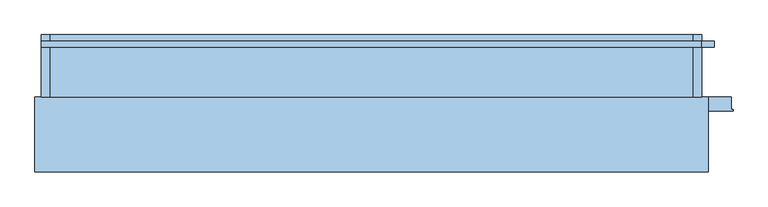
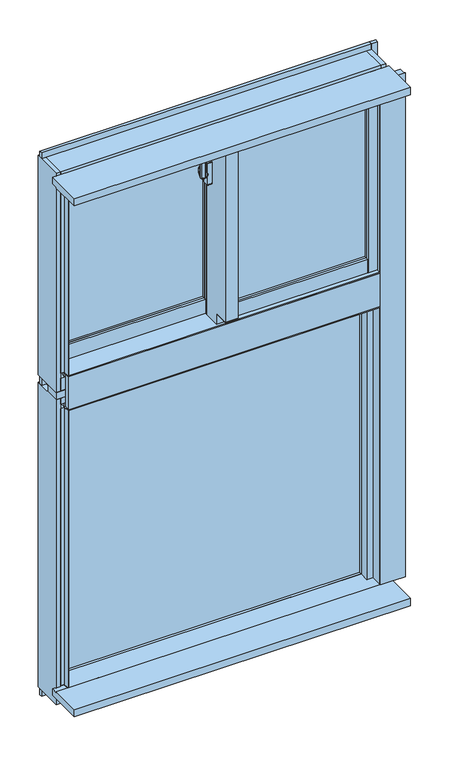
"""IFC4 building model written with IfcOpenShell, lengths in millimetres: window geometry, FNSⅡ100R_非防火_面付枠_段窓_分解無目 : FIX/引違."""

from ifc_helpers import new_model, si_unit, point, frame, frame_2d, origin, place, context, project, spatial, polyline, circle_curve, trimmed, segment, composite_curve, outline, extrude, faceted_brep, source, transform, mapped, element, save
from ifc_brep_helpers import plane_surface, cylinder_surface, revolved_surface, advanced_brep


def window_4e5b74e6(model_context):
    return source(origin(), model_context, "Body", "SolidModel", [
        extrude(outline(composite_curve([segment(polyline([(-39.0, 34.6), (-39.0, 26.4)]), True, "CONTINUOUS"), segment(trimmed(circle_curve(frame_2d((-41.0, 26.4)), 2.0), [point((-39.0, 26.4))], [point((-41.3606557, 24.4327869))], False, "CARTESIAN"), True, "CONTINUOUS"), segment(polyline([(-41.3606557, 24.4327869), (-52.3606557, 26.4494536)]), True, "CONTINUOUS"), segment(trimmed(circle_curve(frame_2d((-52.0, 28.4166667)), 2.0), [point((-52.3606557, 26.4494536))], [point((-54.0, 28.4166667))], False, "CARTESIAN"), True, "CONTINUOUS"), segment(polyline([(-54.0, 28.4166667), (-54.0, 32.5833333)]), True, "CONTINUOUS"), segment(trimmed(circle_curve(frame_2d((-52.0, 32.5833333)), 2.0), [point((-54.0, 32.5833333))], [point((-52.3606557, 34.5505464))], False, "CARTESIAN"), True, "CONTINUOUS"), segment(polyline([(-52.3606557, 34.5505464), (-41.3606557, 36.5672131)]), True, "CONTINUOUS"), segment(trimmed(circle_curve(frame_2d((-41.0, 34.6)), 2.0), [point((-41.3606557, 36.5672131))], [point((-39.0, 34.6))], False, "CARTESIAN"), True, "CONTINUOUS")], self_intersect=False)), frame((0.0, 0.0, 2450.0), z_axis=(0.0, 0.0, 1.0), x_axis=(1.0, 0.0, 0.0)), (0.0, 0.0, 1.0), 100.0),
        advanced_brep(
        [(-37.5, 38.8234285, 2481.7333311), (-45.5, 38.8234285, 2481.7333311), (-45.5, 38.4351999, 2480.2844424), (-39.0, 38.4351999, 2480.2844424), (-39.0, 36.6234666, 2473.5229616), (-37.5, 36.6234666, 2473.5229616), (-39.0, 36.6466117, 2439.3190372), (-45.5, 36.6466117, 2439.3190372), (-45.5, 36.907084, 2437.8418256), (-37.5, 36.907084, 2437.8418256), (-37.5, 35.4310745, 2446.2126915), (-39.0, 35.4310745, 2446.2126915)],
        [
            (0, 1),
            (1, 2),
            (2, 3),
            (3, 4),
            (4, 5),
            (5, 0),
            (6, 7),
            (7, 8),
            (8, 9),
            (9, 10),
            (10, 11),
            (11, 6),
            (0, 9, circle_curve(frame((-37.5, 33.0, 2460.0), z_axis=(-1.0, 0.0, 0.0), x_axis=(0.0, 0.25881904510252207, 0.965925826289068)), 22.5)),
            (8, 1, circle_curve(frame((-45.5, 33.0, 2460.0), z_axis=(1.0, 0.0, 0.0), x_axis=(0.0, 0.25881904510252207, 0.965925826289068)), 22.5)),
            (7, 2, circle_curve(frame((-45.5, 33.0, 2460.0), z_axis=(1.0, 0.0, 0.0), x_axis=(0.0, 0.25881904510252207, 0.965925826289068)), 21.0)),
            (6, 3, circle_curve(frame((-39.0, 33.0, 2460.0), z_axis=(1.0, 0.0, 0.0), x_axis=(0.0, 0.25881904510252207, 0.965925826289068)), 21.0)),
            (11, 4, circle_curve(frame((-39.0, 33.0, 2460.0), z_axis=(-1.0, 0.0, 0.0), x_axis=(0.0, -1.0, 0.0)), 14.0)),
            (5, 10, circle_curve(frame((-37.5, 33.0, 2460.0), z_axis=(1.0, 0.0, 0.0), x_axis=(0.0, -1.0, 0.0)), 14.0)),
        ],
        [
            plane_surface(frame((-43.5470497, 33.0, 2460.0), z_axis=(0.0, -0.965925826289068, 0.25881904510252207), x_axis=(0.0, 0.25881904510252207, 0.965925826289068))),
            plane_surface(frame((-43.5470497, 33.0, 2460.0), z_axis=(0.0, -0.9848077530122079, -0.17364817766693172), x_axis=(0.0, 0.17364817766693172, -0.9848077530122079))),
            cylinder_surface(frame((-43.5470497, 33.0, 2460.0), z_axis=(-1.0, 0.0, 0.0), x_axis=(0.0, 0.25881904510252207, 0.965925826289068)), 22.5),
            plane_surface(frame((-45.5, 33.0, 2460.0), z_axis=(-1.0, 0.0, 0.0), x_axis=(0.0, 0.25881904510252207, 0.965925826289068))),
            revolved_surface(polyline([(-45.5, 38.43519994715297, 2480.2844423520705), (-39.0, 38.43519994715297, 2480.2844423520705)]), (-43.5470497, 33.0, 2460.0), (-1.0, 0.0, 0.0)),
            plane_surface(frame((-39.0, 33.0, 2460.0), z_axis=(-1.0, 0.0, 0.0), x_axis=(0.0, 0.25881904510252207, 0.965925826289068))),
            plane_surface(frame((-37.5, 33.0, 2460.0), z_axis=(1.0, 0.0, 0.0), x_axis=(0.0, 0.25881904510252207, 0.965925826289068))),
            cylinder_surface(frame((-37.5, 33.0, 2460.0), z_axis=(-1.0, 0.0, 0.0), x_axis=(0.0, -1.0, 0.0)), 14.0),
        ],
        [
            (0, [[1, 2, 3, 4, 5, 6]]),
            (1, [[7, 8, 9, 10, 11, 12]]),
            (2, [[-1, 13, -9, 14]]),
            (3, [[-2, -14, -8, 15]]),
            (4, [[-3, -15, -7, 16]]),
            (5, [[-16, -12, 17, -4]]),
            (6, [[-13, -6, 18, -10]]),
            (7, [[-17, -11, -18, -5]]),
        ],
    ),
        extrude(outline(composite_curve([segment(trimmed(circle_curve(frame_2d((33.0, 2460.0)), 11.5), [point((44.5, 2460.0))], [point((21.5, 2460.0))], False, "CARTESIAN"), True, "CONTINUOUS"), segment(trimmed(circle_curve(frame_2d((33.0, 2460.0)), 11.5), [point((21.5, 2460.0))], [point((44.5, 2460.0))], False, "CARTESIAN"), True, "CONTINUOUS")], self_intersect=False)), frame((-37.5, 0.0, 0.0), z_axis=(1.0, 0.0, 0.0), x_axis=(0.0, 1.0, 0.0)), (0.0, 0.0, 1.0), 2.5),
        extrude(outline(composite_curve([segment(polyline([(24.0, 2497.5), (42.0, 2497.5)]), True, "CONTINUOUS"), segment(trimmed(circle_curve(frame_2d((42.0, 2495.5)), 2.0), [point((42.0, 2497.5))], [point((44.0, 2495.5))], False, "CARTESIAN"), True, "CONTINUOUS"), segment(polyline([(44.0, 2495.5), (44.0, 2424.5)]), True, "CONTINUOUS"), segment(trimmed(circle_curve(frame_2d((42.0, 2424.5)), 2.0), [point((44.0, 2424.5))], [point((42.0, 2422.5))], False, "CARTESIAN"), True, "CONTINUOUS"), segment(polyline([(42.0, 2422.5), (24.0, 2422.5)]), True, "CONTINUOUS"), segment(trimmed(circle_curve(frame_2d((24.0, 2424.5)), 2.0), [point((24.0, 2422.5))], [point((22.0, 2424.5))], False, "CARTESIAN"), True, "CONTINUOUS"), segment(polyline([(22.0, 2424.5), (22.0, 2495.5)]), True, "CONTINUOUS"), segment(trimmed(circle_curve(frame_2d((24.0, 2495.5)), 2.0), [point((22.0, 2495.5))], [point((24.0, 2497.5))], False, "CARTESIAN"), True, "CONTINUOUS")], self_intersect=False)), frame((-35.0, 0.0, 0.0), z_axis=(1.0, 0.0, 0.0), x_axis=(0.0, 1.0, 0.0)), (0.0, 0.0, 1.0), 15.0),
        extrude(outline(polyline([(20.0, 24.0), (468.0, 24.0), (468.0, 18.0), (20.0, 18.0), (20.0, 24.0)])), frame((0.0, 0.0, 2008.0), z_axis=(0.0, 0.0, 1.0), x_axis=(1.0, 0.0, 0.0)), (0.0, 0.0, 1.0), 562.0),
        extrude(outline(polyline([(20.0, 42.0), (468.0, 42.0), (468.0, 36.0), (20.0, 36.0), (20.0, 42.0)])), frame((0.0, 0.0, 2008.0), z_axis=(0.0, 0.0, 1.0), x_axis=(1.0, 0.0, 0.0)), (0.0, 0.0, 1.0), 562.0),
        extrude(outline(polyline([(-468.0, 82.0), (-20.0, 82.0), (-20.0, 76.0), (-468.0, 76.0), (-468.0, 82.0)])), frame((0.0, 0.0, 2008.0), z_axis=(0.0, 0.0, 1.0), x_axis=(1.0, 0.0, 0.0)), (0.0, 0.0, 1.0), 562.0),
        extrude(outline(polyline([(-468.0, 100.0), (-20.0, 100.0), (-20.0, 94.0), (-468.0, 94.0), (-468.0, 100.0)])), frame((0.0, 0.0, 2008.0), z_axis=(0.0, 0.0, 1.0), x_axis=(1.0, 0.0, 0.0)), (0.0, 0.0, 1.0), 562.0),
        faceted_brep([(-500.0, 108.0, 2610.0), (-468.0, 108.0, 2610.0), (-468.0, 108.0, 1920.0), (-500.0, 108.0, 1920.0), (-500.0, 79.0, 1920.0), (-500.0, 79.0, 2610.0), (-489.5, 79.0, 1960.0), (-468.0, 79.0, 1960.0), (-468.0, 66.0, 1960.0), (-489.5, 66.0, 1960.0), (-489.5, 79.0, 2610.0), (-489.5, 66.0, 2610.0), (-468.0, 66.0, 2610.0), (-468.0, 79.0, 1920.0)], [[[0, 1, 2, 3]], [[4, 5, 0, 3]], [[6, 7, 8, 9]], [[5, 10, 11, 12, 1, 0]], [[13, 4, 3, 2]], [[10, 5, 4, 13, 7, 6]], [[11, 10, 6, 9]], [[12, 11, 9, 8]], [[1, 12, 8, 7, 13, 2]]]),
        faceted_brep([(-20.0, 108.0, 1920.0), (20.0, 108.0, 1920.0), (20.0, 79.0, 1920.0), (-20.0, 79.0, 1920.0), (-1.8, 65.5, 2610.0), (-20.0, 65.5, 2610.0), (-20.0, 65.5, 1960.0), (-1.8, 65.5, 1960.0), (-1.8, 53.1, 2610.0), (-1.8, 53.1, 1960.0), (20.0, 53.1, 2610.0), (20.0, 53.1, 1960.0), (-20.0, 108.0, 2610.0), (20.0, 108.0, 2610.0), (-20.0, 79.0, 1960.0), (20.0, 79.0, 1960.0)], [[[0, 1, 2, 3]], [[4, 5, 6, 7]], [[8, 4, 7, 9]], [[10, 8, 9, 11]], [[12, 13, 1, 0]], [[14, 15, 11, 9, 7, 6]], [[5, 4, 8, 10, 13, 12]], [[13, 10, 11, 15, 2, 1]], [[5, 12, 0, 3, 14, 6]], [[15, 14, 3, 2]]]),
        faceted_brep([(-20.0, 53.1, 1960.0), (-15.0, 53.1, 1960.0), (-15.0, 0.0, 1960.0), (-20.0, 0.0, 1960.0), (15.0, 12.0, 1960.0), (20.0, 12.0, 1960.0), (20.0, 0.0, 1960.0), (15.0, 0.0, 1960.0), (-15.0, 53.1, 2610.0), (-15.0, 0.0, 2610.0), (-15.0, 0.0, 2581.0), (-15.0, -42.0, 2581.0), (-15.0, -42.0, 1996.5), (-15.0, 0.0, 1996.5), (-20.0, 53.1, 2610.0), (-20.0, 0.0, 2610.0), (20.0, 12.0, 2610.0), (15.0, 12.0, 2610.0), (15.0, 0.0, 2610.0), (20.0, 0.0, 2610.0), (-20.0, 0.0, 1996.5), (-20.0, -50.0, 1996.5), (-20.0, -50.0, 2581.0), (-20.0, 0.0, 2581.0), (20.0, -50.0, 1996.5), (20.0, -50.0, 2581.0), (20.0, 0.0, 2581.0), (20.0, 0.0, 1996.5), (15.0, -42.0, 2581.0), (15.0, -42.0, 1996.5), (15.0, 0.0, 1996.5), (15.0, 0.0, 2581.0)], [[[0, 1, 2, 3]], [[4, 5, 6, 7]], [[1, 8, 9, 10, 11, 12, 13, 2]], [[14, 8, 1, 0]], [[8, 14, 15, 9]], [[16, 17, 18, 19]], [[14, 0, 3, 20, 21, 22, 23, 15]], [[22, 21, 24, 25]], [[5, 16, 19, 26, 25, 24, 27, 6]], [[28, 29, 12, 11]], [[17, 16, 5, 4]], [[17, 4, 7, 30, 29, 28, 31, 18]], [[13, 20, 3, 2]], [[27, 30, 7, 6]], [[20, 13, 12, 29, 30, 27, 24, 21]], [[10, 23, 22, 25, 26, 31, 28, 11]], [[23, 10, 9, 15]], [[31, 26, 19, 18]]]),
        faceted_brep([(-15.0, 53.1, 1960.0), (20.0, 53.1, 1960.0), (20.0, 12.0, 1960.0), (15.0, 12.0, 1960.0), (15.0, 0.0, 1960.0), (-15.0, 0.0, 1960.0), (-15.0, 53.1, 2610.0), (-15.0, 0.0, 1996.5), (-15.0, -42.0, 1996.5), (-15.0, -42.0, 2581.0), (-15.0, 0.0, 2581.0), (-15.0, 0.0, 2610.0), (20.0, 53.1, 2610.0), (15.0, 0.0, 2581.0), (15.0, -42.0, 2581.0), (15.0, 12.0, 2610.0), (20.0, 12.0, 2610.0), (15.0, 0.0, 2610.0), (15.0, -42.0, 1996.5), (15.0, 0.0, 1996.5)], [[[0, 1, 2, 3, 4, 5]], [[6, 0, 5, 7, 8, 9, 10, 11]], [[6, 12, 1, 0]], [[13, 10, 9, 14]], [[15, 16, 12, 6, 11, 17]], [[9, 8, 18, 14]], [[12, 16, 2, 1]], [[19, 7, 5, 4]], [[7, 19, 18, 8]], [[10, 13, 17, 11]], [[3, 15, 17, 13, 14, 18, 19, 4]], [[16, 15, 3, 2]]]),
        extrude(outline(polyline([(468.0, 0.0), (468.0, 8.0), (489.5, 8.0), (489.5, 21.0), (497.0, 21.0), (497.0, 0.0), (468.0, 0.0)])), frame((0.0, 0.0, 1963.0), z_axis=(0.0, 0.0, 1.0), x_axis=(1.0, 0.0, 0.0)), (0.0, 0.0, 1.0), 647.0),
        extrude(outline(polyline([(468.0, 50.0), (500.0, 50.0), (500.0, 21.0), (489.5, 21.0), (489.5, 8.0), (468.0, 8.0), (468.0, 50.0)])), frame((0.0, 0.0, 1960.0), z_axis=(0.0, 0.0, 1.0), x_axis=(1.0, 0.0, 0.0)), (0.0, 0.0, 1.0), 650.0),
        extrude(outline(polyline([(-1.85, 65.5), (-1.85, 58.0), (-20.0, 58.0), (-20.0, 65.5), (-1.85, 65.5)])), frame((0.0, 0.0, 1960.0), z_axis=(0.0, 0.0, 1.0), x_axis=(1.0, 0.0, 0.0)), (0.0, 0.0, 1.0), 650.0),
        extrude(outline(polyline([(-497.0, 79.0), (-489.5, 79.0), (-489.5, 66.0), (-468.0, 66.0), (-468.0, 58.0), (-497.0, 58.0), (-497.0, 79.0)])), frame((0.0, 0.0, 1960.0), z_axis=(0.0, 0.0, 1.0), x_axis=(1.0, 0.0, 0.0)), (0.0, 0.0, 1.0), 650.0),
        extrude(outline(polyline([(2.0, 1963.0), (2.0, 2008.0), (10.0, 2008.0), (10.0, 1985.5), (21.0, 1985.5), (21.0, 1963.0), (2.0, 1963.0)])), frame((20.0, 0.0, 0.0), z_axis=(1.0, 0.0, 0.0), x_axis=(0.0, 1.0, 0.0)), (0.0, 0.0, 1.0), 448.0),
        extrude(outline(polyline([(50.0, 1960.0), (21.0, 1960.0), (21.0, 1985.5), (10.0, 1985.5), (10.0, 2008.0), (50.0, 2008.0), (50.0, 1960.0)])), frame((20.0, 0.0, 0.0), z_axis=(1.0, 0.0, 0.0), x_axis=(0.0, 1.0, 0.0)), (0.0, 0.0, 1.0), 448.0),
        extrude(outline(polyline([(60.0, 2008.0), (68.0, 2008.0), (68.0, 1985.5), (79.0, 1985.5), (79.0, 1960.0), (60.0, 1960.0), (60.0, 2008.0)])), frame((-468.0, 0.0, 0.0), z_axis=(1.0, 0.0, 0.0), x_axis=(0.0, 1.0, 0.0)), (0.0, 0.0, 1.0), 448.0),
        extrude(outline(polyline([(108.0, 1920.0), (79.0, 1920.0), (79.0, 1985.5), (68.0, 1985.5), (68.0, 2008.0), (108.0, 2008.0), (108.0, 1920.0)])), frame((-468.0, 0.0, 0.0), z_axis=(1.0, 0.0, 0.0), x_axis=(0.0, 1.0, 0.0)), (0.0, 0.0, 1.0), 448.0),
        extrude(outline(polyline([(23.0, 2590.5), (10.0, 2590.5), (10.0, 2570.0), (2.0, 2570.0), (2.0, 2610.0), (23.0, 2610.0), (23.0, 2590.5)])), frame((20.0, 0.0, 0.0), z_axis=(1.0, 0.0, 0.0), x_axis=(0.0, 1.0, 0.0)), (0.0, 0.0, 1.0), 448.0),
        extrude(outline(polyline([(50.0, 2610.0), (50.0, 2570.0), (10.0, 2570.0), (10.0, 2590.5), (23.0, 2590.5), (23.0, 2610.0), (50.0, 2610.0)])), frame((20.0, 0.0, 0.0), z_axis=(1.0, 0.0, 0.0), x_axis=(0.0, 1.0, 0.0)), (0.0, 0.0, 1.0), 448.0),
        extrude(outline(polyline([(81.0, 2590.5), (68.0, 2590.5), (68.0, 2570.0), (60.0, 2570.0), (60.0, 2610.0), (81.0, 2610.0), (81.0, 2590.5)])), frame((-468.0, 0.0, 0.0), z_axis=(1.0, 0.0, 0.0), x_axis=(0.0, 1.0, 0.0)), (0.0, 0.0, 1.0), 448.0),
        extrude(outline(polyline([(108.0, 2610.0), (108.0, 2570.0), (68.0, 2570.0), (68.0, 2590.5), (81.0, 2590.5), (81.0, 2610.0), (108.0, 2610.0)])), frame((-468.0, 0.0, 0.0), z_axis=(1.0, 0.0, 0.0), x_axis=(0.0, 1.0, 0.0)), (0.0, 0.0, 1.0), 448.0),
        extrude(outline(polyline([(0.0, 2581.0), (-50.0, 2581.0), (-50.0, 2582.0), (-1.0, 2582.0), (-1.0, 2610.0), (0.0, 2610.0), (0.0, 2581.0)])), frame((-20.0, 0.0, 0.0), z_axis=(1.0, 0.0, 0.0), x_axis=(0.0, 1.0, 0.0)), (0.0, 0.0, 1.0), 40.0),
        extrude(outline(polyline([(0.0, 1996.5), (0.0, 1960.0), (-1.0, 1960.0), (-1.0, 1995.5), (-50.0, 1995.5), (-50.0, 1996.5), (0.0, 1996.5)])), frame((-20.0, 0.0, 0.0), z_axis=(1.0, 0.0, 0.0), x_axis=(0.0, 1.0, 0.0)), (0.0, 0.0, 1.0), 40.0),
        extrude(outline(polyline([(-15.0, 80.3), (-15.0, 31.9), (-500.0, 31.9), (-500.0, 80.3), (-15.0, 80.3)])), frame((0.0, 0.0, 2610.0), z_axis=(0.0, 0.0, 1.0), x_axis=(1.0, 0.0, 0.0)), (0.0, 0.0, 1.0), 25.0),
        faceted_brep([(515.0, 80.3, 2635.0), (515.0, 10.0, 2635.0), (-515.0, 10.0, 2635.0), (-515.0, 80.3, 2635.0), (-15.0, 80.3, 2635.0), (-15.0, 31.9, 2635.0), (500.0, 31.9, 2635.0), (500.0, 80.3, 2635.0), (-515.0, 80.3, 2610.0), (-15.0, 80.3, 2610.0), (515.0, 80.3, 2610.0), (500.0, 80.3, 2610.0), (515.0, 110.0, 2645.0), (515.0, 110.0, 2610.0), (-515.0, 110.0, 2610.0), (-515.0, 110.0, 2645.0), (500.0, 31.9, 2610.0), (-15.0, 31.9, 2610.0), (515.0, 10.0, 2645.0), (-515.0, 10.0, 2645.0)], [[[0, 1, 2, 3, 4, 5, 6, 7]], [[3, 8, 9, 4]], [[10, 0, 7, 11]], [[12, 13, 14, 15]], [[13, 10, 11, 16, 17, 9, 8, 14]], [[18, 12, 15, 19]], [[1, 18, 19, 2]], [[13, 12, 18, 1, 0, 10]], [[14, 8, 3, 2, 19, 15]], [[6, 16, 11, 7]], [[9, 17, 5, 4]], [[16, 6, 5, 17]]]),
        extrude(outline(polyline([(31.9, 2610.0), (-10.0, 2610.0), (-10.0, 2613.0), (10.0, 2613.0), (10.0, 2635.0), (31.9, 2635.0), (31.9, 2610.0)])), frame((-500.0, 0.0, 0.0), z_axis=(1.0, 0.0, 0.0), x_axis=(0.0, 1.0, 0.0)), (0.0, 0.0, 1.0), 1000.0),
        faceted_brep([(500.0, 10.0, 2630.0), (500.0, 10.0, 2613.0), (503.0, 10.0, 2613.0), (503.0, 10.0, 1960.0), (515.0, 10.0, 1960.0), (515.0, 10.0, 2630.0), (500.0, 14.5, 1960.0), (500.0, -10.0, 1960.0), (500.0, -10.0, 2613.0), (500.0, 14.5, 2630.0), (515.0, 14.5, 1960.0), (503.0, -10.0, 1960.0), (515.0, 14.5, 2630.0), (503.0, -10.0, 2613.0)], [[[0, 1, 2, 3, 4, 5]], [[6, 7, 8, 1, 0, 9]], [[7, 6, 10, 4, 3, 11]], [[0, 5, 12, 9]], [[7, 11, 13, 8]], [[11, 3, 2, 13]], [[12, 5, 4, 10]], [[9, 12, 10, 6]], [[2, 1, 8, 13]]]),
        faceted_brep([(-500.0, -10.0, 1960.0), (-500.0, 76.0, 1960.0), (-500.0, 76.0, 2630.0), (-500.0, 10.0, 2630.0), (-500.0, 10.0, 2613.0), (-500.0, -10.0, 2613.0), (-515.0, 76.0, 2630.0), (-515.0, 76.0, 1960.0), (-515.0, 10.0, 1960.0), (-503.0, -10.0, 1960.0), (-503.0, 10.0, 1960.0), (-515.0, 10.0, 2630.0), (-503.0, 10.0, 2613.0), (-503.0, -10.0, 2613.0)], [[[0, 1, 2, 3, 4, 5]], [[6, 2, 1, 7]], [[8, 7, 1, 0, 9, 10]], [[11, 3, 2, 6]], [[8, 10, 12, 4, 3, 11]], [[10, 9, 13, 12]], [[9, 0, 5, 13]], [[8, 11, 6, 7]], [[4, 12, 13, 5]]]),
        faceted_brep([(-530.0, 110.0, 1900.0), (-515.0, 110.0, 1900.0), (-515.0, 10.0, 1900.0), (-530.0, 10.0, 1900.0), (-530.0, 10.0, 2645.0), (-530.0, 110.0, 2645.0), (-515.0, 110.0, 2645.0), (-515.0, 10.0, 2645.0), (-515.0, 110.0, 1909.0), (-515.0, 76.0, 1909.0), (-515.0, 76.0, 2610.0), (-515.0, 110.0, 2610.0), (-500.0, 110.0, 2610.0), (-500.0, 110.0, 1909.0), (-500.0, 76.0, 2610.0), (-500.0, 76.0, 1909.0)], [[[0, 1, 2, 3]], [[4, 5, 0, 3]], [[6, 7, 2, 1, 8, 9, 10, 11]], [[5, 4, 7, 6]], [[7, 4, 3, 2]], [[5, 6, 11, 12, 13, 8, 1, 0]], [[12, 11, 10, 14]], [[13, 15, 9, 8]], [[14, 10, 9, 15]], [[12, 14, 15, 13]]]),
        faceted_brep([(515.0, 10.0, 1900.0), (515.0, 110.0, 1900.0), (530.0, 110.0, 1900.0), (530.0, 10.0, 1900.0), (530.0, 10.0, 2645.0), (515.0, 10.0, 2645.0), (500.0, 14.5, 2610.0), (500.0, 110.0, 2610.0), (500.0, 110.0, 1909.0), (500.0, 14.5, 1909.0), (515.0, 14.5, 2610.0), (515.0, 14.5, 1909.0), (530.0, 110.0, 2645.0), (515.0, 110.0, 2645.0), (515.0, 110.0, 2610.0), (515.0, 110.0, 1909.0)], [[[0, 1, 2, 3]], [[4, 5, 0, 3]], [[6, 7, 8, 9]], [[10, 6, 9, 11]], [[5, 4, 12, 13]], [[6, 10, 14, 7]], [[9, 8, 15, 11]], [[12, 4, 3, 2]], [[13, 12, 2, 1, 15, 8, 7, 14]], [[5, 13, 14, 10, 11, 15, 1, 0]]]),
        faceted_brep([(515.0, 110.0, 1900.0), (515.0, 110.0, 1909.0), (515.0, 76.0, 1909.0), (515.0, 76.0, 1944.0), (515.0, 10.0, 1944.0), (515.0, 10.0, 1900.0), (-515.0, 110.0, 1900.0), (-515.0, 10.0, 1900.0), (-515.0, 10.0, 1944.0), (-515.0, 76.0, 1944.0), (-515.0, 76.0, 1909.0), (-515.0, 110.0, 1909.0), (500.0, 37.25, 1944.0), (500.0, 18.8, 1944.0), (-15.0, 18.8, 1944.0), (-15.0, 37.25, 1944.0), (500.0, 18.8, 1960.0), (500.0, 37.25, 1960.0), (-15.0, 18.8, 1960.0), (-15.0, 37.25, 1960.0)], [[[0, 1, 2, 3, 4, 5]], [[6, 7, 8, 9, 10, 11]], [[3, 2, 10, 9]], [[0, 5, 7, 6]], [[4, 3, 9, 8], [12, 13, 14, 15]], [[2, 1, 11, 10]], [[5, 4, 8, 7]], [[1, 0, 6, 11]], [[16, 13, 12, 17]], [[18, 19, 15, 14]], [[13, 16, 18, 14]], [[17, 12, 15, 19]], [[16, 17, 19, 18]]]),
        faceted_brep([(-503.0, 10.0, 1944.0), (-503.0, 10.0, 1957.0), (-503.0, -10.0, 1957.0), (-503.0, -10.0, 1960.0), (-503.0, 18.8, 1960.0), (-503.0, 18.8, 1944.0), (503.0, 10.0, 1944.0), (503.0, 10.0, 1957.0), (500.0, 14.5, 1960.0), (500.0, 14.5, 1944.0), (500.0, 18.8, 1944.0), (500.0, 18.8, 1960.0), (503.0, -10.0, 1960.0), (503.0, -10.0, 1957.0), (503.0, 14.5, 1944.0), (503.0, 14.5, 1960.0), (-15.0, 18.8, 1960.0), (-15.0, 76.0, 1960.0), (-500.0, 76.0, 1960.0), (-500.0, 18.8, 1960.0), (-500.0, 18.8, 1944.0), (-15.0, 18.8, 1944.0), (-500.0, 76.0, 1944.0), (-15.0, 76.0, 1944.0)], [[[0, 1, 2, 3, 4, 5]], [[6, 7, 1, 0]], [[8, 9, 10, 11]], [[12, 13, 7, 6, 14, 15]], [[7, 13, 2, 1]], [[13, 12, 3, 2]], [[4, 3, 12, 15, 8, 11, 16, 17, 18, 19]], [[5, 4, 19, 20]], [[11, 10, 21, 16]], [[0, 5, 20, 22, 23, 21, 10, 9, 14, 6]], [[9, 8, 15, 14]], [[17, 16, 21, 23]], [[18, 22, 20, 19]], [[17, 23, 22, 18]]]),
        extrude(outline(polyline([(-480.0, 75.6), (480.0, 75.6), (480.0, 69.6), (-480.0, 69.6), (-480.0, 75.6)])), frame((0.0, 0.0, 900.0), z_axis=(0.0, 0.0, 1.0), x_axis=(1.0, 0.0, 0.0)), (0.0, 0.0, 1.0), 920.0),
        extrude(outline(polyline([(-480.0, 93.6), (480.0, 93.6), (480.0, 87.6), (-480.0, 87.6), (-480.0, 93.6)])), frame((0.0, 0.0, 900.0), z_axis=(0.0, 0.0, 1.0), x_axis=(1.0, 0.0, 0.0)), (0.0, 0.0, 1.0), 920.0),
        faceted_brep([(-480.0, 60.0, 1820.0), (-515.0, 60.0, 1820.0), (-515.0, 60.0, 900.0), (-480.0, 60.0, 900.0), (-480.0, 110.0, 1820.0), (-480.0, 110.0, 900.0), (-515.0, 110.0, 1875.0), (-515.0, 10.0, 1875.0), (-515.0, 10.0, 840.0), (-515.0, 110.0, 840.0), (-515.0, 110.0, 900.0), (-515.0, 110.0, 1820.0), (-530.0, 110.0, 1875.0), (-530.0, 10.0, 1875.0), (-530.0, 110.0, 840.0), (-530.0, 10.0, 840.0)], [[[0, 1, 2, 3]], [[4, 0, 3, 5]], [[6, 7, 8, 9, 10, 2, 1, 11]], [[5, 3, 2, 10]], [[12, 13, 7, 6]], [[14, 9, 8, 15]], [[13, 12, 14, 15]], [[7, 13, 15, 8]], [[12, 6, 11, 4, 5, 10, 9, 14]], [[4, 11, 1, 0]]]),
        faceted_brep([(480.0, 60.0, 1820.0), (480.0, 110.0, 1820.0), (480.0, 110.0, 900.0), (480.0, 60.0, 900.0), (515.0, 60.0, 1820.0), (515.0, 60.0, 900.0), (530.0, 10.0, 1875.0), (515.0, 10.0, 1875.0), (515.0, 10.0, 840.0), (530.0, 10.0, 840.0), (530.0, 110.0, 1875.0), (530.0, 110.0, 840.0), (515.0, 110.0, 900.0), (515.0, 110.0, 1875.0), (515.0, 110.0, 840.0), (515.0, 110.0, 1820.0)], [[[0, 1, 2, 3]], [[4, 0, 3, 5]], [[6, 7, 8, 9]], [[10, 6, 9, 11]], [[5, 3, 2, 12]], [[10, 13, 7, 6]], [[11, 9, 8, 14]], [[13, 10, 11, 14, 12, 2, 1, 15]], [[7, 13, 15, 4, 5, 12, 14, 8]], [[15, 1, 0, 4]]]),
        extrude(outline(polyline([(500.0, -10.0), (500.0, 28.5), (480.0, 28.5), (480.0, 60.0), (515.0, 60.0), (515.0, 10.0), (503.0, 10.0), (503.0, -10.0), (500.0, -10.0)])), frame((0.0, 0.0, 900.0), z_axis=(0.0, 0.0, 1.0), x_axis=(1.0, 0.0, 0.0)), (0.0, 0.0, 1.0), 940.0),
        extrude(outline(polyline([(-515.0, 10.0), (-515.0, 60.0), (-480.0, 60.0), (-480.0, 28.5), (-500.0, 28.5), (-500.0, -10.0), (-503.0, -10.0), (-503.0, 10.0), (-515.0, 10.0)])), frame((0.0, 0.0, 900.0), z_axis=(0.0, 0.0, 1.0), x_axis=(1.0, 0.0, 0.0)), (0.0, 0.0, 1.0), 940.0),
        extrude(outline(polyline([(10.0, 884.0), (10.0, 897.0), (-10.0, 897.0), (-10.0, 900.0), (60.0, 900.0), (60.0, 884.0), (10.0, 884.0)])), frame((-503.0, 0.0, 0.0), z_axis=(1.0, 0.0, 0.0), x_axis=(0.0, 1.0, 0.0)), (0.0, 0.0, 1.0), 1006.0),
        extrude(outline(polyline([(110.0, 840.0), (10.0, 840.0), (10.0, 884.0), (60.0, 884.0), (60.0, 900.0), (110.0, 900.0), (110.0, 870.0), (91.0, 870.0), (91.0, 850.0), (110.0, 850.0), (110.0, 840.0)])), frame((-515.0, 0.0, 0.0), z_axis=(1.0, 0.0, 0.0), x_axis=(0.0, 1.0, 0.0)), (0.0, 0.0, 1.0), 1030.0),
        extrude(outline(polyline([(60.0, 1817.0), (26.0, 1817.0), (26.0, 1840.0), (-10.0, 1840.0), (-10.0, 1843.0), (10.0, 1843.0), (10.0, 1855.0), (60.0, 1855.0), (60.0, 1817.0)])), frame((-503.0, 0.0, 0.0), z_axis=(1.0, 0.0, 0.0), x_axis=(0.0, 1.0, 0.0)), (0.0, 0.0, 1.0), 1006.0),
        extrude(outline(polyline([(110.0, 1820.0), (60.0, 1820.0), (60.0, 1855.0), (10.0, 1855.0), (10.0, 1875.0), (110.0, 1875.0), (110.0, 1820.0)])), frame((-515.0, 0.0, 0.0), z_axis=(1.0, 0.0, 0.0), x_axis=(0.0, 1.0, 0.0)), (0.0, 0.0, 1.0), 1030.0),
        extrude(outline(polyline([(-110.0, 900.0), (-10.0, 900.0), (-10.0, 897.0), (10.0, 897.0), (10.0, 875.0), (-110.0, 875.0), (-110.0, 900.0)])), frame((-540.0, 0.0, 0.0), z_axis=(1.0, 0.0, 0.0), x_axis=(0.0, 1.0, 0.0)), (0.0, 0.0, 1.0), 1080.0),
        extrude(outline(polyline([(-530.0, 90.0), (-530.0, 100.0), (530.0, 100.0), (530.0, 90.0), (-530.0, 90.0)])), frame((0.0, 0.0, 820.0), z_axis=(0.0, 0.0, 1.0), x_axis=(1.0, 0.0, 0.0)), (0.0, 0.0, 1.0), 20.0),
        extrude(outline(polyline([(550.0, 90.0), (530.0, 90.0), (530.0, 100.0), (550.0, 100.0), (550.0, 90.0)])), frame((0.0, 0.0, 820.0), z_axis=(0.0, 0.0, 1.0), x_axis=(1.0, 0.0, 0.0)), (0.0, 0.0, 1.0), 1845.0),
        extrude(outline(polyline([(503.0, -10.0), (503.0, 10.0), (577.0, 10.0), (577.0, -10.0), (580.0, -10.0), (580.0, -12.5), (500.0, -12.5), (500.0, -10.0), (503.0, -10.0)])), frame((0.0, 0.0, 900.0), z_axis=(0.0, 0.0, 1.0), x_axis=(1.0, 0.0, 0.0)), (0.0, 0.0, 1.0), 1710.0),
        extrude(outline(polyline([(10.0, 2613.0), (-10.0, 2613.0), (-10.0, 2610.0), (-110.0, 2610.0), (-110.0, 2635.0), (10.0, 2635.0), (10.0, 2613.0)])), frame((-540.0, 0.0, 0.0), z_axis=(1.0, 0.0, 0.0), x_axis=(0.0, 1.0, 0.0)), (0.0, 0.0, 1.0), 1080.0),
        extrude(outline(polyline([(-530.0, 90.0), (-530.0, 100.0), (530.0, 100.0), (530.0, 90.0), (-530.0, 90.0)])), frame((0.0, 0.0, 1875.0), z_axis=(0.0, 0.0, 1.0), x_axis=(1.0, 0.0, 0.0)), (0.0, 0.0, 1.0), 25.0),
        extrude(outline(polyline([(-500.0, -10.0), (-500.0, 10.0), (500.0, 10.0), (500.0, -10.0), (-500.0, -10.0)])), frame((0.0, 0.0, 1843.0), z_axis=(0.0, 0.0, 1.0), x_axis=(1.0, 0.0, 0.0)), (0.0, 0.0, 1.0), 114.0),
        extrude(outline(polyline([(-530.0, 10.0), (-530.0, 53.5), (530.0, 53.5), (530.0, 10.0), (-530.0, 10.0)])), frame((0.0, 0.0, 1875.0), z_axis=(0.0, 0.0, 1.0), x_axis=(1.0, 0.0, 0.0)), (0.0, 0.0, 1.0), 25.0),
        extrude(outline(polyline([(-530.0, 90.0), (-530.0, 100.0), (530.0, 100.0), (530.0, 90.0), (-530.0, 90.0)])), frame((0.0, 0.0, 2645.0), z_axis=(0.0, 0.0, 1.0), x_axis=(1.0, 0.0, 0.0)), (0.0, 0.0, 1.0), 20.0),
    ])


if __name__ == "__main__":
    model = new_model("IFC4")
    model_context = context("Model", 3, world=origin())
    ifc_project = project(units=[si_unit("LENGTHUNIT", "METRE", prefix="MILLI")], contexts=[model_context])
    site = spatial("IfcSite", under=ifc_project)
    building = spatial("IfcBuilding", under=site)
    placement = place(None, origin())
    window_shape = window_4e5b74e6(model_context)
    element("IfcWindow", 1, ObjectType="FNSⅡ100R_非防火_面付枠_段窓_分解無目 : FIX/引違", at=placement, inside=building, context=model_context, shape_type="MappedRepresentation", body=[
        mapped(window_shape, transform((0.0, 0.0, 0.0), x_axis=(1.0, 0.0, 0.0), y_axis=(0.0, 1.0, 0.0), z_axis=(0.0, 0.0, 1.0))),
    ])
    save(model, "model.ifc")
